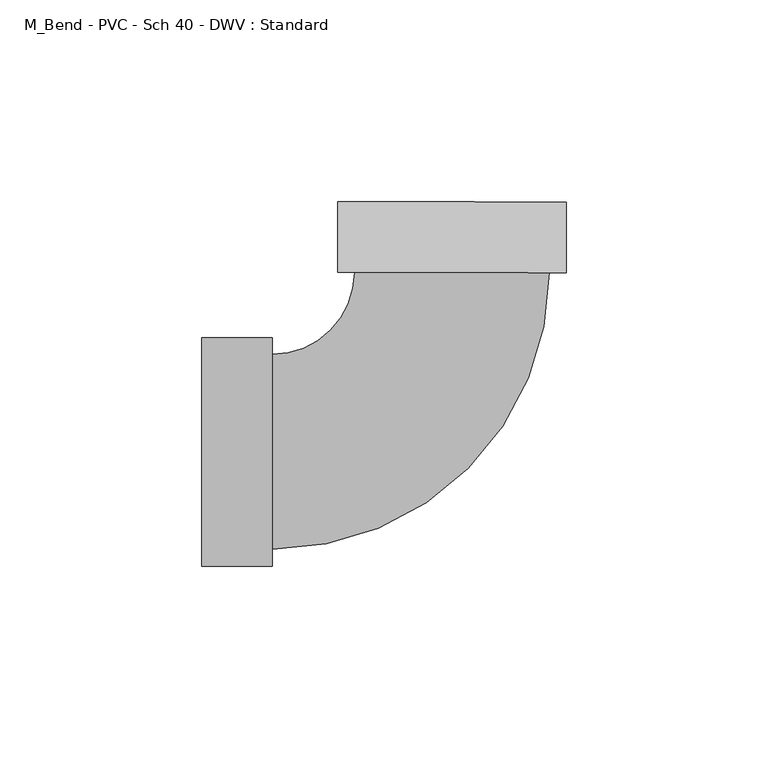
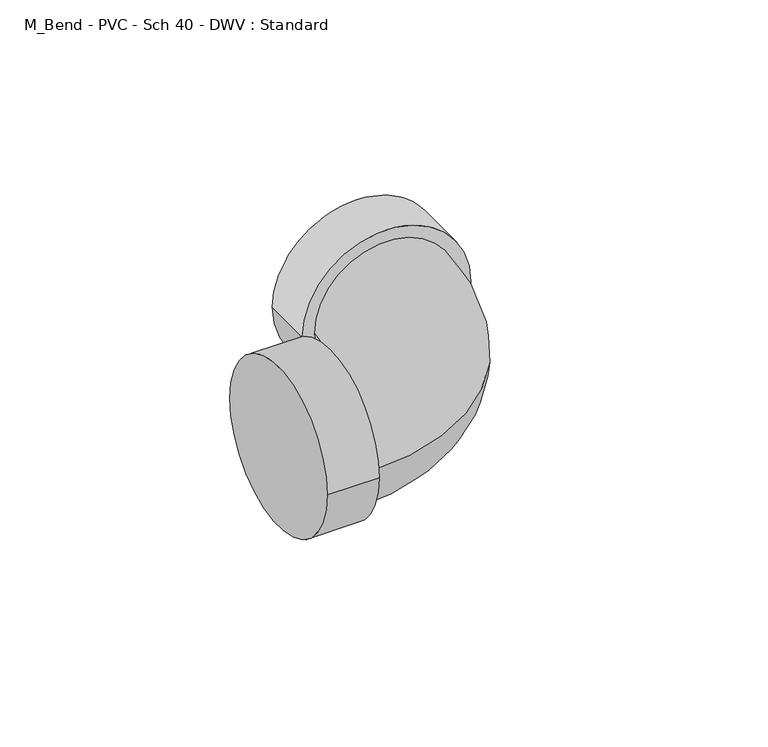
"""IFC4 building model written with IfcOpenShell, lengths in millimetres: pipe fitting geometry, M_Bend - PVC - Sch 40 - DWV : Standard."""

import ifcopenshell
import ifcopenshell.guid

model = None  # the IFC model being written
_history = None  # IfcOwnerHistory: only IFC2X3 demands one
_inside = {}  # id of a spatial element -> (the spatial element, [elements in it])
_under = {}  # id of a project, library or spatial element -> (it, [spatial elements below it])
_declared = {}  # id of a project -> (the project, [libraries it declares])
_typed = {}  # id of a type object -> (the type object, [elements of that type])
_made_of = {}  # id of a material, layer set ... -> (it, [elements and type objects made of it])


def new_model(schema):
    """Start an empty IFC model of exactly this schema.

    Asked for "IFC4X3", IfcOpenShell would pick the latest addendum, in which some entities
    have other attributes; the version numbers below select the first issue.
    IFC2X3 requires an IfcOwnerHistory on every rooted entity: one is made here for all.
    """
    global model, _history
    if schema == "IFC4X3":
        model = ifcopenshell.file(schema_version=(4, 3, 0, 0))
    else:
        model = ifcopenshell.file(schema=schema)
    _inside.clear()
    _under.clear()
    _declared.clear()
    _typed.clear()
    _made_of.clear()
    _history = None
    if model.schema == "IFC2X3":
        org = make("IfcOrganization", Name="unknown")
        user = make(
            "IfcPersonAndOrganization",
            ThePerson=make("IfcPerson", FamilyName="unknown"),
            TheOrganization=org,
        )
        app = make(
            "IfcApplication",
            ApplicationDeveloper=org,
            Version="unknown",
            ApplicationFullName="unknown",
            ApplicationIdentifier="unknown",
        )
        _history = make(
            "IfcOwnerHistory",
            OwningUser=user,
            OwningApplication=app,
            ChangeAction="ADDED",
            CreationDate=0,
        )
    return model


def make(cls, **values):
    """One entity of the class cls with the attributes given. An attribute that is None is left unset."""
    return model.create_entity(
        cls, **{name: value for name, value in values.items() if value is not None}
    )


def rooted(cls, **values):
    """An entity with a GlobalId (a new one), such as an element, a storey or a relation."""
    return make(cls, GlobalId=ifcopenshell.guid.new(), OwnerHistory=_history, **values)


def si_unit(unit_type, name, prefix=None):
    """IfcSIUnit, for example si_unit("LENGTHUNIT", "METRE", prefix="MILLI")."""
    return make("IfcSIUnit", UnitType=unit_type, Prefix=prefix, Name=name)


def assignment(units):
    """IfcUnitAssignment: the units of a project."""
    return None if units is None else make("IfcUnitAssignment", Units=units)


def point(xyz):
    """IfcCartesianPoint."""
    return None if xyz is None else make("IfcCartesianPoint", Coordinates=xyz)


def direction(xyz):
    """IfcDirection."""
    return None if xyz is None else make("IfcDirection", DirectionRatios=xyz)


def frame(location, z_axis=None, x_axis=None):
    """IfcAxis2Placement3D, a coordinate frame: its origin and axes. An axis left out is left unset."""
    return make(
        "IfcAxis2Placement3D",
        Location=point(location),
        Axis=direction(z_axis),
        RefDirection=direction(x_axis),
    )


def origin():
    """The frame at (0, 0, 0) with its axes left unset."""
    return frame((0.0, 0.0, 0.0))


def place(relative_to, where):
    """IfcLocalPlacement: puts the frame where relative to a parent placement (None: the world)."""
    return make(
        "IfcLocalPlacement", PlacementRelTo=relative_to, RelativePlacement=where
    )


def context(
    kind, dimensions, precision=None, world=None, true_north=None, identifier=None
):
    """IfcGeometricRepresentationContext, for example the 3D "Model" context."""
    return make(
        "IfcGeometricRepresentationContext",
        ContextIdentifier=identifier,
        ContextType=kind,
        CoordinateSpaceDimension=dimensions,
        Precision=precision,
        WorldCoordinateSystem=world,
        TrueNorth=true_north,
    )


def project(units=None, contexts=None):
    """IfcProject with its units and contexts."""
    return rooted(
        "IfcProject",
        Name="project",
        RepresentationContexts=contexts,
        UnitsInContext=assignment(units),
    )


def spatial(cls, under=None, at=None, **own):
    """A site, building, storey or space (cls), placed at a placement, below another one or the project."""
    s = rooted(cls, ObjectPlacement=at, **own)
    if under is not None:
        _under.setdefault(under.id(), (under, []))[1].append(s)
    return s


def circle_curve(where, radius):
    """IfcCircle in the frame where."""
    return make("IfcCircle", Position=where, Radius=radius)


def ellipse_curve(where, semi_axis1, semi_axis2):
    """IfcEllipse in the frame where."""
    return make(
        "IfcEllipse", Position=where, SemiAxis1=semi_axis1, SemiAxis2=semi_axis2
    )


def trimmed(basis, trim1, trim2, sense, master):
    """IfcTrimmedCurve: the piece of a basis curve between two trims."""
    return make(
        "IfcTrimmedCurve",
        BasisCurve=basis,
        Trim1=trim1,
        Trim2=trim2,
        SenseAgreement=sense,
        MasterRepresentation=master,
    )


def shape(context_of_items, identifier, shape_type, items):
    """IfcShapeRepresentation: the items that make up one representation, for example the "Body"."""
    return make(
        "IfcShapeRepresentation",
        ContextOfItems=context_of_items,
        RepresentationIdentifier=identifier,
        RepresentationType=shape_type,
        Items=items,
    )


def source(mapping_origin, context_of_items, identifier, shape_type, items):
    """IfcRepresentationMap: a shape defined once, which mapped items show again and again."""
    return make(
        "IfcRepresentationMap",
        MappingOrigin=mapping_origin,
        MappedRepresentation=shape(context_of_items, identifier, shape_type, items),
    )


def transform(
    local_origin,
    x_axis=None,
    y_axis=None,
    z_axis=None,
    scale=None,
    scale2=None,
    scale3=None,
    uniform=True,
):
    """IfcCartesianTransformationOperator3D, or its non-uniform kind. x_axis, y_axis, z_axis: its Axis1, 2, 3."""
    if uniform:
        return make(
            "IfcCartesianTransformationOperator3D",
            Axis1=direction(x_axis),
            Axis2=direction(y_axis),
            LocalOrigin=point(local_origin),
            Scale=scale,
            Axis3=direction(z_axis),
        )
    return make(
        "IfcCartesianTransformationOperator3DnonUniform",
        Axis1=direction(x_axis),
        Axis2=direction(y_axis),
        LocalOrigin=point(local_origin),
        Scale=scale,
        Axis3=direction(z_axis),
        Scale2=scale2,
        Scale3=scale3,
    )


def mapped(mapping_source, mapping_target):
    """IfcMappedItem: shows the shape of a source again, moved by a transform."""
    return make(
        "IfcMappedItem", MappingSource=mapping_source, MappingTarget=mapping_target
    )


def made_of(thing, what):
    """Note that an element or type object is made of a material, layer set ...; save() writes the relation."""
    if what is not None:
        _made_of.setdefault(what.id(), (what, []))[1].append(thing)
    return thing


def element(
    cls,
    number,
    at=None,
    inside=None,
    cuts=None,
    type_object=None,
    material=None,
    context=None,
    identifier="Body",
    shape_type=None,
    held_by="IfcProductDefinitionShape",
    body=None,
    shapes=None,
    **own,
):
    """One element of the class cls, such as IfcWall. Its Tag is "e" and its number.

    at: its placement. inside: the storey or other place that contains it. cuts: it is an
    opening in that element (IfcRelVoidsElement). A single representation is given by context,
    identifier, shape_type and body (its items); several are given by shapes. held_by: the class
    of the entity that holds the representations. save() writes the other relations.
    """
    e = rooted(cls, Tag="e%d" % number, ObjectPlacement=at, **own)
    if body is not None:
        shapes = [shape(context, identifier, shape_type, body)]
    if shapes is not None:
        e.Representation = make(held_by, Representations=shapes)
    if inside is not None:
        _inside.setdefault(inside.id(), (inside, []))[1].append(e)
    if cuts is not None:
        rooted(
            "IfcRelVoidsElement", RelatingBuildingElement=cuts, RelatedOpeningElement=e
        )
    if type_object is not None:
        _typed.setdefault(type_object.id(), (type_object, []))[1].append(e)
    return made_of(e, material)


def aggregate(whole, parts):
    """IfcRelAggregates: a whole, such as a stair, and the parts it consists of."""
    return rooted("IfcRelAggregates", RelatingObject=whole, RelatedObjects=parts)


def save(model, path):
    """Write the relations noted so far, then the file.

    IfcRelAggregates (storeys below a building ...), IfcRelContainedInSpatialStructure (elements
    in a storey), IfcRelDefinesByType, IfcRelAssociatesMaterial and IfcRelDeclares: one each for
    every whole, place, type object, material and project.
    """
    for whole, parts in _under.values():
        aggregate(whole, parts)
    for where, things in _inside.values():
        rooted(
            "IfcRelContainedInSpatialStructure",
            RelatedElements=things,
            RelatingStructure=where,
        )
    for kind, things in _typed.values():
        rooted("IfcRelDefinesByType", RelatedObjects=things, RelatingType=kind)
    for what, things in _made_of.values():
        rooted("IfcRelAssociatesMaterial", RelatedObjects=things, RelatingMaterial=what)
    for by, libraries in _declared.values():
        rooted("IfcRelDeclares", RelatingContext=by, RelatedDefinitions=libraries)
    model.write(path)


def plane_surface(at):
    """IfcPlane: the flat surface through the origin of the frame at, square to its z axis."""
    return make("IfcPlane", Position=at)


def cylinder_surface(at, radius):
    """IfcCylindricalSurface: all points at the distance radius from the z axis of the frame at."""
    return make("IfcCylindricalSurface", Position=at, Radius=radius)


def revolved_surface(curve, axis_point, axis_direction):
    """IfcSurfaceOfRevolution: the curve turned about the line through axis_point along axis_direction."""
    return make(
        "IfcSurfaceOfRevolution",
        SweptCurve=make("IfcArbitraryOpenProfileDef", ProfileType="CURVE", Curve=curve),
        AxisPosition=make("IfcAxis1Placement", Location=point(axis_point), Axis=direction(axis_direction)),
    )


def advanced_brep(points, edges, surfaces, faces):
    """IfcAdvancedBrep: a solid bounded by faces that lie on surfaces and meet in shared edges.

    An edge is (start, end): straight between two places in points (the first is 0);
    or (start, end, curve); or (start, end, curve, False) where it runs against its curve.
    A face is (place in surfaces, loops), or (place, loops, False) where it looks against
    its surface's normal. A loop lists edges by number (the first is 1), with a minus sign
    where the edge is run from its end to its start. The first loop is the outer one.
    """
    corners = [point(p) for p in points]
    vertices = [make("IfcVertexPoint", VertexGeometry=c) for c in corners]
    made = []
    for start, end, *more in edges:
        made.append(
            make(
                "IfcEdgeCurve",
                EdgeStart=vertices[start],
                EdgeEnd=vertices[end],
                EdgeGeometry=more[0] if more else make("IfcPolyline", Points=[corners[start], corners[end]]),
                SameSense=more[1] if len(more) > 1 else True,
            )
        )
    hull = []
    for where, loops, *sense in faces:
        bounds = []
        for j, loop in enumerate(loops):
            ring = [make("IfcOrientedEdge", EdgeElement=made[abs(k) - 1], Orientation=k > 0) for k in loop]
            bounds.append(
                make(
                    "IfcFaceOuterBound" if j == 0 else "IfcFaceBound",
                    Bound=make("IfcEdgeLoop", EdgeList=ring),
                    Orientation=True,
                )
            )
        hull.append(make("IfcAdvancedFace", Bounds=bounds, FaceSurface=surfaces[where], SameSense=sense[0] if sense else True))
    return make("IfcAdvancedBrep", Outer=make("IfcClosedShell", CfsFaces=hull))


def m_bend_pvc_sch_40_dwv_standard_59f4505f(model_context):
    return source(origin(), model_context, "Body", "AdvancedBrep", [
        advanced_brep(
        [(-61.8998, -28.2829, 0.0), (-61.8998, 28.2829, 0.0), (-44.45, -28.2829, 0.0), (-44.45, 28.2829, 0.0), (-44.45, -24.13, 0.0), (-44.45, 24.13, 0.0), (-24.0763958, 44.4790576, 0.0), (24.1835692, 44.4208778, 0.0), (28.3364661, 44.4158713, 0.0), (-28.2292928, 44.4840641, 0.0), (28.3575027, 61.8656586, 0.0), (-28.2082561, 61.9338515, 0.0)],
        [
            (0, 1, circle_curve(frame((-61.8998, 0.0, 0.0), z_axis=(-1.0, 0.0, 0.0), x_axis=(0.0, 1.0, 0.0)), 28.2829)),
            (1, 0, circle_curve(frame((-61.8998, 0.0, 0.0), z_axis=(-1.0, 0.0, 0.0), x_axis=(0.0, 1.0, 0.0)), 28.2829)),
            (2, 3, circle_curve(frame((-44.45, 0.0, 0.0), z_axis=(1.0, 0.0, 0.0), x_axis=(0.0, 1.0, 0.0)), 28.2829)),
            (3, 2, circle_curve(frame((-44.45, 0.0, 0.0), z_axis=(1.0, 0.0, 0.0), x_axis=(0.0, 1.0, 0.0)), 28.2829)),
            (4, 5, circle_curve(frame((-44.45, 0.0, 0.0), z_axis=(-1.0, 0.0, 0.0), x_axis=(0.0, 1.0, 0.0)), 24.13)),
            (5, 4, circle_curve(frame((-44.45, 0.0, 0.0), z_axis=(-1.0, 0.0, 0.0), x_axis=(0.0, 1.0, 0.0)), 24.13)),
            (0, 2),
            (3, 1),
            (6, 5, circle_curve(frame((-44.45, 44.503619, 0.0), z_axis=(0.0, 0.0, -1.0), x_axis=(0.0, -1.0, 0.0)), 20.373619)),
            (4, 7, circle_curve(frame((-44.45, 44.503619, 0.0), z_axis=(0.0, 0.0, 1.0), x_axis=(0.0, -1.0, 0.0)), 68.633619)),
            (7, 6, circle_curve(frame((0.0535867, 44.4499677, 0.0), z_axis=(-0.0012055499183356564, -0.9999992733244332, 0.0), x_axis=(-0.9999992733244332, 0.0012055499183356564, 0.0)), 24.13)),
            (6, 7, circle_curve(frame((0.0535867, 44.4499677, 0.0), z_axis=(-0.0012055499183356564, -0.9999992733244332, 0.0), x_axis=(-0.9999992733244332, 0.0012055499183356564, 0.0)), 24.13)),
            (8, 9, circle_curve(frame((0.0535867, 44.4499677, 0.0), z_axis=(-0.0012055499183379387, -0.9999992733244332, 0.0), x_axis=(-0.9999992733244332, 0.0012055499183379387, 0.0)), 28.2829)),
            (9, 8, circle_curve(frame((0.0535867, 44.4499677, 0.0), z_axis=(-0.0012055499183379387, -0.9999992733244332, 0.0), x_axis=(-0.9999992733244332, 0.0012055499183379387, 0.0)), 28.2829)),
            (10, 11, circle_curve(frame((0.0746233, 61.899755, 0.0), z_axis=(0.0012055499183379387, 0.9999992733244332, 0.0), x_axis=(-0.9999992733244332, 0.0012055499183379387, 0.0)), 28.2829)),
            (11, 10, circle_curve(frame((0.0746233, 61.899755, 0.0), z_axis=(0.0012055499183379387, 0.9999992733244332, 0.0), x_axis=(-0.9999992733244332, 0.0012055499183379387, 0.0)), 28.2829)),
            (8, 10),
            (11, 9),
        ],
        [
            plane_surface(frame((-61.8998, 0.0, 0.0), z_axis=(-1.0, 0.0, 0.0), x_axis=(0.0, 0.0, 1.0))),
            plane_surface(frame((-44.45, 0.0, 0.0), z_axis=(1.0, 0.0, 0.0), x_axis=(0.0, 0.0, 1.0))),
            cylinder_surface(frame((-61.8998, 0.0, 0.0), z_axis=(-1.0, 0.0, 0.0), x_axis=(0.0, 1.0, 0.0)), 28.2829),
            revolved_surface(trimmed(ellipse_curve(frame((-44.45, 0.0, 0.0), z_axis=(-1.0, 0.0, 0.0), x_axis=(0.0, 1.0, 0.0)), 24.13, 24.13), [point((-44.45, -24.13, 0.0))], [point((-44.45, 24.13, 0.0))], True, "CARTESIAN"), (-44.45, 44.503619, 0.0), (0.0, 0.0, 1.0)),
            revolved_surface(trimmed(ellipse_curve(frame((-44.45, 0.0, 0.0), z_axis=(-1.0, 0.0, 0.0), x_axis=(0.0, 1.0, 0.0)), 24.13, 24.13), [point((-44.45, 24.13, 0.0))], [point((-44.45, -24.13, 0.0))], True, "CARTESIAN"), (-44.45, 44.503619, 0.0), (0.0, 0.0, 1.0)),
            plane_surface(frame((0.0535867, 44.4499677, 0.0), z_axis=(-0.0012055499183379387, -0.9999992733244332, 0.0), x_axis=(0.0, 0.0, 1.0))),
            plane_surface(frame((0.0746233, 61.899755, 0.0), z_axis=(0.0012055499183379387, 0.9999992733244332, 0.0), x_axis=(0.0, 0.0, 1.0))),
            cylinder_surface(frame((0.0535867, 44.4499677, 0.0), z_axis=(-0.0012055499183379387, -0.9999992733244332, 0.0), x_axis=(-0.9999992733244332, 0.0012055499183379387, 0.0)), 28.2829),
        ],
        [
            (0, [[1, 2]]),
            (1, [[3, 4], [5, 6]]),
            (2, [[-1, 7, -4, 8]]),
            (2, [[-2, -8, -3, -7]]),
            (3, [[9, -5, 10, 11]]),
            (4, [[-9, 12, -10, -6]]),
            (5, [[13, 14], [-11, -12]]),
            (6, [[15, 16]]),
            (7, [[-13, 17, -16, 18]]),
            (7, [[-14, -18, -15, -17]]),
        ],
    ),
    ])


if __name__ == "__main__":
    model = new_model("IFC4")
    model_context = context("Model", 3, world=origin())
    ifc_project = project(units=[si_unit("LENGTHUNIT", "METRE", prefix="MILLI")], contexts=[model_context])
    site = spatial("IfcSite", under=ifc_project)
    building = spatial("IfcBuilding", under=site)
    placement = place(None, origin())
    m_bend_pvc_sch_40_dwv_standard_shape = m_bend_pvc_sch_40_dwv_standard_59f4505f(model_context)
    element("IfcPipeFitting", 1, ObjectType="M_Bend - PVC - Sch 40 - DWV : Standard", at=placement, inside=building, context=model_context, shape_type="MappedRepresentation", body=[
        mapped(m_bend_pvc_sch_40_dwv_standard_shape, transform((0.0, 0.0, 0.0), x_axis=(1.0, 0.0, 0.0), y_axis=(0.0, 1.0, 0.0), z_axis=(0.0, 0.0, 1.0))),
    ])
    save(model, "model.ifc")
